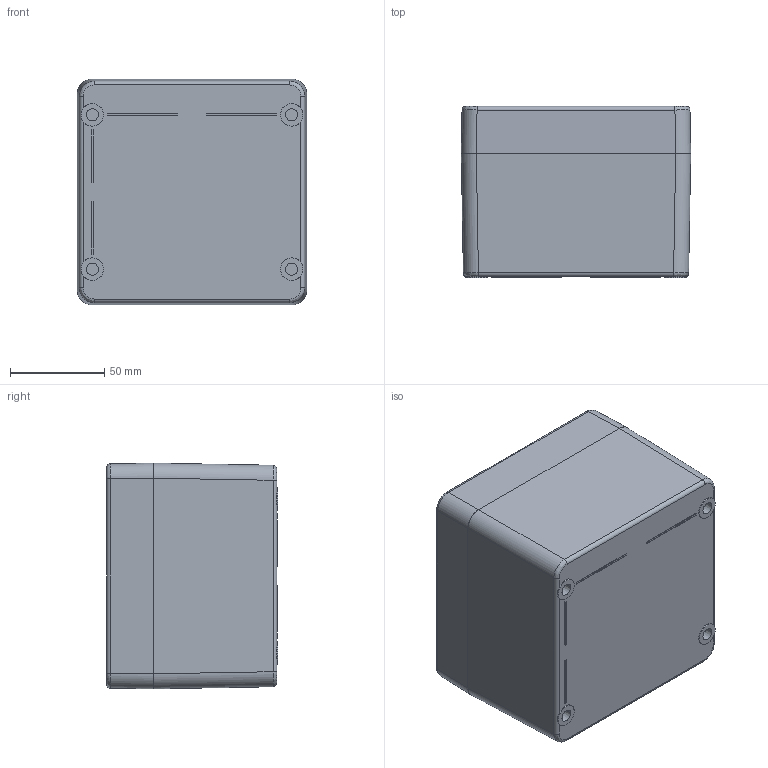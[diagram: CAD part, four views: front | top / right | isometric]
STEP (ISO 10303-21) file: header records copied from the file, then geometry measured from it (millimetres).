
FILE_DESCRIPTION((''),'2;1');
FILE_NAME('4224000000_ASM','2023-12-01T09:46:24',('silke.otte'),(''),'CREO PARAMETRIC BY PTC INC, 2022124','CREO PARAMETRIC BY PTC INC, 2022124','');
FILE_SCHEMA(('AUTOMOTIVE_DESIGN { 1 0 10303 214 1 1 1 1 }'));
Length unit declared in the file: millimetre
Products named in the file (12): 9331005000; 9502217000; 9502218000; 9331005000_ASM; 9332005000; CP-DICHTUNG_35; 9614003500_ASM; 9262006000; 9261027000; 9258857000; 9258838000; 4224000000_ASM
Assembly tree (26 placements, depth 3):
  4224000000_ASM
    9331005000_ASM
      9331005000
      9502217000  x4
      9502218000  x6
    9614003500_ASM
      9332005000
      CP-DICHTUNG_35
    9262006000  x4
    9261027000  x4
    9258857000  x2
    9258838000
Bounding box: 122 x 91.1 x 120 mm (x, y, z)
Volume: 387556.1 mm3; surface area: 172079.8 mm2
Topology: 24 solids, 38 shells, 2367 faces, 9907 edges, 11331 vertices
Faces by surface type: plane 1641, cone 432, cylinder 258, torus 20, bspline 16
Entity records: 54940 total; most frequent: CARTESIAN_POINT 11593, DIRECTION 6777, ORIENTED_EDGE 4356, VECTOR 3170, LINE 3170, PRESENTATION_STYLE_ASSIGNMENT 2399, STYLED_ITEM 2381, CURVE_STYLE 2369
